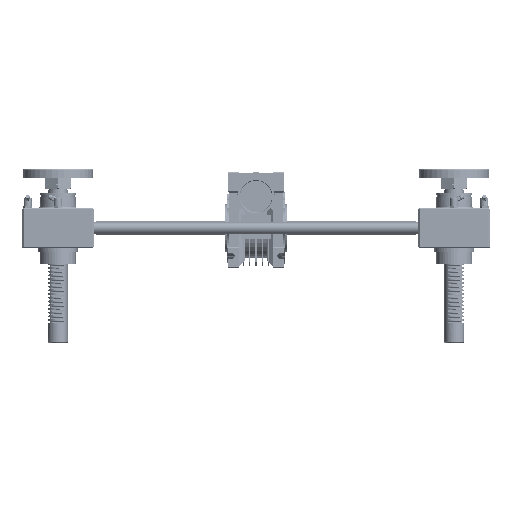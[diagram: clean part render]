
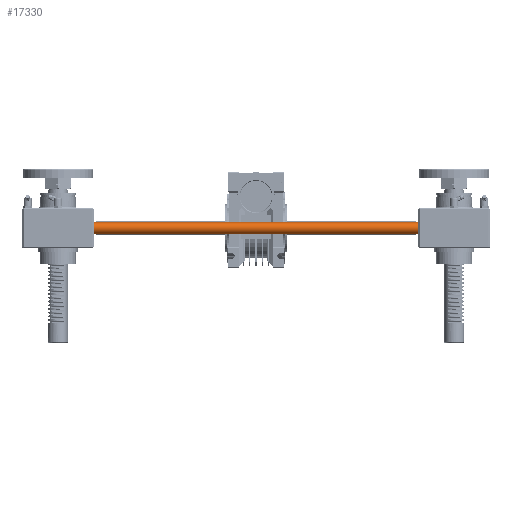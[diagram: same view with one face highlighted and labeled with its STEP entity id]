
A CAD part, left-side view. The second image highlights one B-rep face of the part: STEP entity #17330.
In plain terms, the highlighted cylindrical face has radius 7.5 mm (diameter 15 mm), a full revolution.
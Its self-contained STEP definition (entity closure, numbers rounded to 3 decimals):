
#17330=ADVANCED_FACE('',(#37025,#37026),#37027,.T.);
#37025=FACE_OUTER_BOUND('',#58031,.T.);
#37026=FACE_OUTER_BOUND('',#58032,.T.);
#37027=CYLINDRICAL_SURFACE('',#58033,7.5);
#58031=EDGE_LOOP('',(#138270));
#58032=EDGE_LOOP('',(#138271));
#58033=AXIS2_PLACEMENT_3D('',#138272,#138273,#138274);
#138270=ORIENTED_EDGE('',*,*,#166404,.T.);
#138271=ORIENTED_EDGE('',*,*,#166401,.T.);
#138272=CARTESIAN_POINT('',(0.0,0.0,50.0));
#138273=DIRECTION('',(0.0,0.0,-1.0));
#138274=DIRECTION('',(-1.0,0.0,0.0));
#166401=EDGE_CURVE('',#214721,#214721,#214722,.F.);
#166404=EDGE_CURVE('',#214727,#214727,#214728,.T.);
#214721=VERTEX_POINT('',#301505);
#214722=CIRCLE('',#301506,7.5);
#214727=VERTEX_POINT('',#301511);
#214728=CIRCLE('',#301512,7.5);
#301505=CARTESIAN_POINT('',(7.5,0.0,49.5));
#301506=AXIS2_PLACEMENT_3D('',#332683,#332684,#332685);
#301511=CARTESIAN_POINT('',(7.5,0.0,-481.5));
#301512=AXIS2_PLACEMENT_3D('',#332692,#332693,#332694);
#332683=CARTESIAN_POINT('',(0.0,0.0,49.5));
#332684=DIRECTION('',(0.0,0.0,1.0));
#332685=DIRECTION('',(1.0,0.0,0.0));
#332692=CARTESIAN_POINT('',(0.0,0.0,-481.5));
#332693=DIRECTION('',(0.0,0.0,1.0));
#332694=DIRECTION('',(1.0,0.0,0.0));
